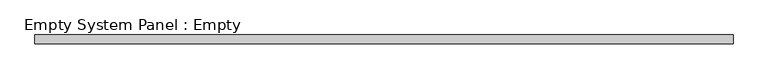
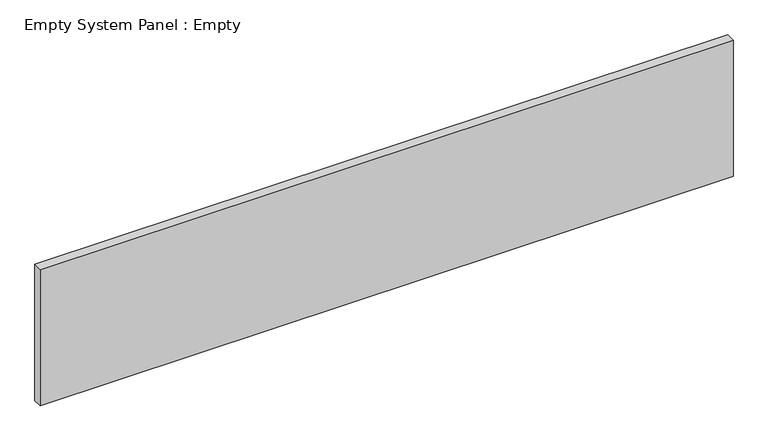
"""IFC4 building model written with IfcOpenShell, lengths in millimetres: plate geometry, Empty System Panel : Empty."""

from ifc_helpers import new_model, si_unit, origin, origin_with_axes, place, context, project, spatial, polyline, outline, extrude, source, transform, mapped, element, save


def empty_system_panel_empty_df440034(model_context):
    return source(origin(), model_context, "Body", "SweptSolid", [
        extrude(outline(polyline([(3900.0, -50.0), (-3900.0, -50.0), (-3900.0, 50.0), (3900.0, 50.0), (3900.0, -50.0)])), origin_with_axes(), (0.0, 0.0, 1.0), 1620.0),
    ])


if __name__ == "__main__":
    model = new_model("IFC4")
    model_context = context("Model", 3, world=origin())
    ifc_project = project(units=[si_unit("LENGTHUNIT", "METRE", prefix="MILLI")], contexts=[model_context])
    site = spatial("IfcSite", under=ifc_project)
    building = spatial("IfcBuilding", under=site)
    placement = place(None, origin())
    empty_system_panel_empty_shape = empty_system_panel_empty_df440034(model_context)
    element("IfcPlate", 1, ObjectType="Empty System Panel : Empty", at=placement, inside=building, context=model_context, shape_type="MappedRepresentation", body=[
        mapped(empty_system_panel_empty_shape, transform((0.0, 0.0, 0.0), x_axis=(1.0, 0.0, 0.0), y_axis=(0.0, 1.0, 0.0), z_axis=(0.0, 0.0, 1.0))),
    ])
    save(model, "model.ifc")
